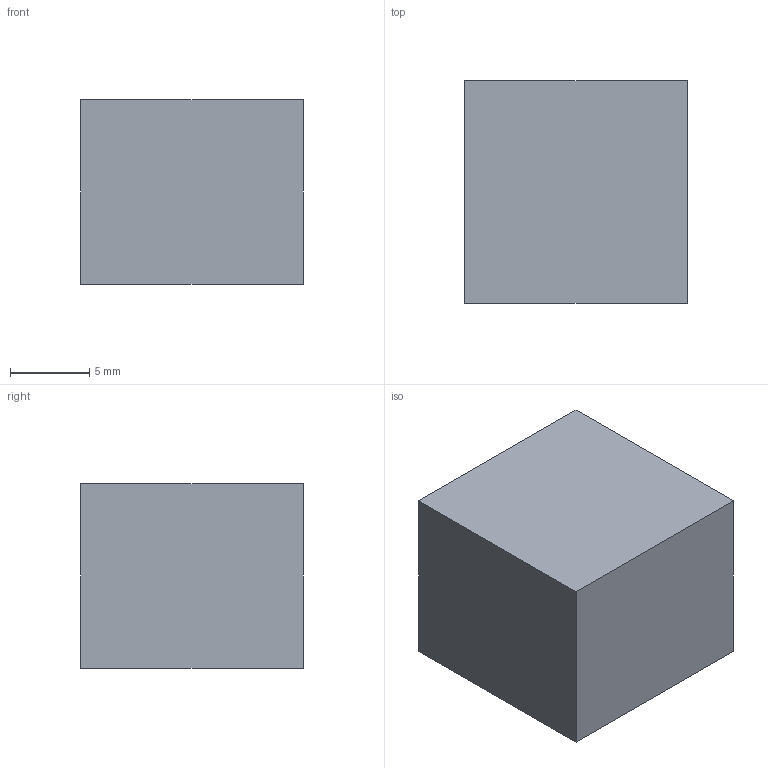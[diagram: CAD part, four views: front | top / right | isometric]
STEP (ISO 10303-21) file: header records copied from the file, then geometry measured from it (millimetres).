
FILE_DESCRIPTION(('Open CASCADE Model'),'2;1');
FILE_NAME('Open CASCADE Shape Model','2026-09-20T16:04:59',('Author'),( 'Open CASCADE'),'Open CASCADE STEP processor 8.0','Open CASCADE 8.0' ,'Unknown');
FILE_SCHEMA(('AP242_MANAGED_MODEL_BASED_3D_ENGINEERING_MIM_LF {1 0 10303 442 1 1 4 }' ));
Length unit declared in the file: millimetre
Products named in the file (1): Open CASCADE STEP translator 8.0 63
Bounding box: 14 x 14 x 11.6 mm (x, y, z)
Volume: 2273.6 mm3; surface area: 1041.6 mm2
Topology: 1 solids, 1 shells, 6 faces, 12 edges, 8 vertices
Faces by surface type: plane 6
Entity records: 322 total; most frequent: CARTESIAN_POINT 51, DIRECTION 50, LINE 36, VECTOR 36, ORIENTED_EDGE 24, PCURVE 24, DEFINITIONAL_REPRESENTATION 24, EDGE_CURVE 12
